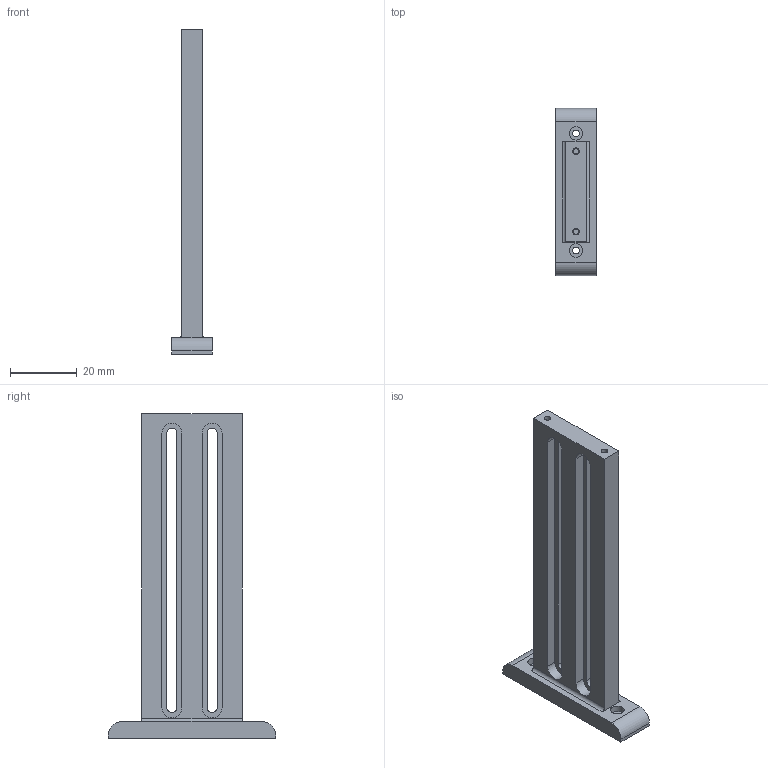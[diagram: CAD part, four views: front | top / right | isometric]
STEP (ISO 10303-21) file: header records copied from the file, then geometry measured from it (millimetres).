
FILE_DESCRIPTION(/* description */ (''),/* implementation_level */ '2;1');
FILE_NAME(/* name */ 'C:/Users/Rasika Jadhav/Downloads/Mission 2 FLoatSat/Slider v3.step',/* time_stamp */ '2022-05-16T03:13:46+02:00',/* author */ (''),/* organization */ (''),/* preprocessor_version */ 'ST-DEVELOPER v18.1',/* originating_system */ 'Autodesk Translation Framework v10.14.0.1471',/* authorisation */ '');
FILE_SCHEMA (('AUTOMOTIVE_DESIGN { 1 0 10303 214 3 1 1 }'));
Length unit declared in the file: millimetre
Products named in the file (1): Slider
Bounding box: 12 x 50 x 97 mm (x, y, z)
Volume: 14695.3 mm3; surface area: 9743.6 mm2
Topology: 1 solids, 1 shells, 47 faces, 110 edges, 72 vertices
Faces by surface type: plane 25, cylinder 20, cone 2
Full cylindrical faces by diameter (mm): 1.6 x2, 2 x4, 4 x2
Entity records: 1408 total; most frequent: DIRECTION 246, CARTESIAN_POINT 230, ORIENTED_EDGE 220, EDGE_CURVE 110, AXIS2_PLACEMENT_3D 88, VERTEX_POINT 72, LINE 70, VECTOR 70
